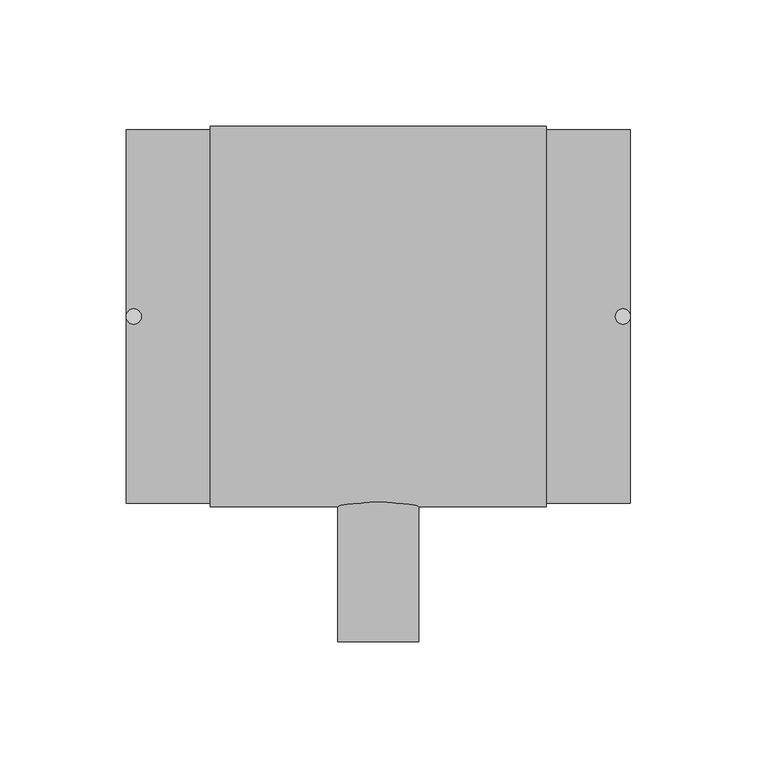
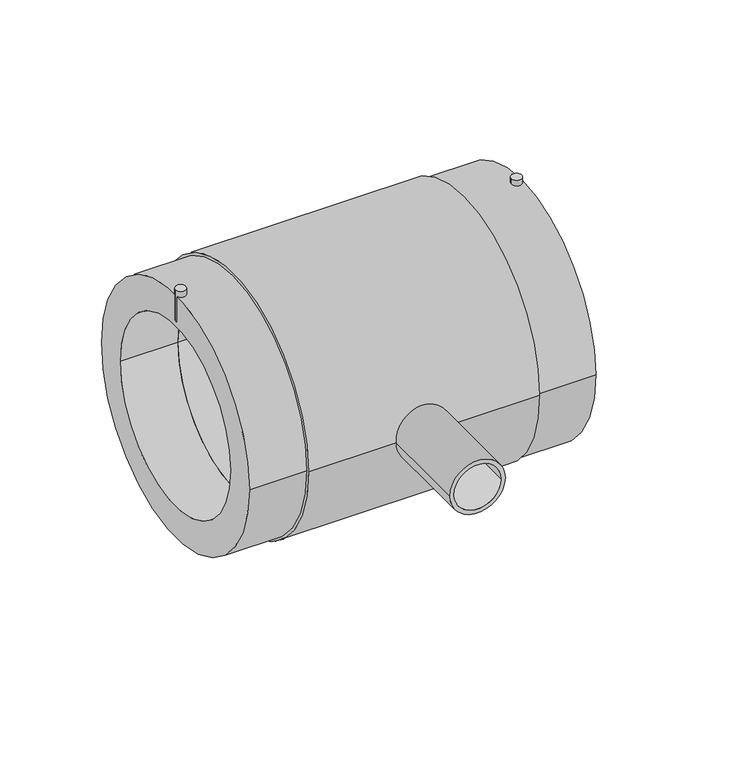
"""IFC4 building model written with IfcOpenShell, lengths in millimetres: pipe fitting geometry, EGB_VASEN_ PPR_Te electrosoldable WXRD300_Te reducida electrosoldable WXRD310 : Te electrosoldable."""

from ifc_helpers import new_model, si_unit, point, frame, frame_2d, origin, origin_2d, place, context, project, spatial, circle_curve, trimmed, segment, composite_curve, outline, extrude, source, transform, mapped, element, save


def pipe_fitting_0f6de56a(model_context):
    return source(origin(), model_context, "Body", "SweptSolid", [
        extrude(outline(composite_curve([segment(trimmed(circle_curve(frame_2d((-97.0, 0.0)), 3.0), [point((-100.0, 0.0))], [point((-94.0, 0.0))], False, "CARTESIAN"), True, "CONTINUOUS"), segment(trimmed(circle_curve(frame_2d((-97.0, 0.0)), 3.0), [point((-94.0, 0.0))], [point((-100.0, 0.0))], False, "CARTESIAN"), True, "CONTINUOUS")], self_intersect=False)), frame((0.0, 0.0, 58.0), z_axis=(0.0, 0.0, 1.0), x_axis=(1.0, 0.0, 0.0)), (0.0, 0.0, 1.0), 19.0),
        extrude(outline(composite_curve([segment(trimmed(circle_curve(frame_2d((97.0, 0.0)), 3.0), [point((94.0, 0.0))], [point((100.0, 0.0))], False, "CARTESIAN"), True, "CONTINUOUS"), segment(trimmed(circle_curve(frame_2d((97.0, 0.0)), 3.0), [point((100.0, 0.0))], [point((94.0, 0.0))], False, "CARTESIAN"), True, "CONTINUOUS")], self_intersect=False)), frame((0.0, 0.0, 58.0), z_axis=(0.0, 0.0, 1.0), x_axis=(1.0, 0.0, 0.0)), (0.0, 0.0, 1.0), 19.0),
        extrude(outline(composite_curve([segment(trimmed(circle_curve(origin_2d(), 18.5), [point((0.0, 18.5))], [point((0.0, -18.5))], False, "CARTESIAN"), True, "CONTINUOUS"), segment(trimmed(circle_curve(origin_2d(), 18.5), [point((0.0, -18.5))], [point((0.0, 18.5))], False, "CARTESIAN"), True, "CONTINUOUS")], self_intersect=False)), frame((0.0, -51.6, 0.0), z_axis=(0.0, 1.0, 0.0), x_axis=(0.0, 0.0, 1.0)), (0.0, 0.0, 1.0), 51.6),
        extrude(outline(composite_curve([segment(trimmed(circle_curve(origin_2d(), 16.0), [point((0.0, -16.0))], [point((0.0, 16.0))], False, "CARTESIAN"), True, "CONTINUOUS"), segment(trimmed(circle_curve(origin_2d(), 16.0), [point((0.0, 16.0))], [point((0.0, -16.0))], False, "CARTESIAN"), True, "CONTINUOUS")], self_intersect=False), holes=[composite_curve([segment(trimmed(circle_curve(origin_2d(), 13.5), [point((0.0, -13.5))], [point((0.0, 13.5))], True, "CARTESIAN"), True, "CONTINUOUS"), segment(trimmed(circle_curve(origin_2d(), 13.5), [point((0.0, 13.5))], [point((0.0, -13.5))], True, "CARTESIAN"), True, "CONTINUOUS")], self_intersect=False)]), frame((0.0, -129.0, 0.0), z_axis=(0.0, 1.0, 0.0), x_axis=(0.0, 0.0, 1.0)), (0.0, 0.0, 1.0), 77.4),
        extrude(outline(composite_curve([segment(trimmed(circle_curve(origin_2d(), 75.5), [point((-75.5, 0.0))], [point((75.5, 0.0))], False, "CARTESIAN"), True, "CONTINUOUS"), segment(trimmed(circle_curve(origin_2d(), 75.5), [point((75.5, 0.0))], [point((-75.5, 0.0))], False, "CARTESIAN"), True, "CONTINUOUS")], self_intersect=False), holes=[composite_curve([segment(trimmed(circle_curve(origin_2d(), 55.0), [point((-55.0, 0.0))], [point((55.0, 0.0))], True, "CARTESIAN"), True, "CONTINUOUS"), segment(trimmed(circle_curve(origin_2d(), 55.0), [point((55.0, 0.0))], [point((-55.0, 0.0))], True, "CARTESIAN"), True, "CONTINUOUS")], self_intersect=False)]), frame((-66.6666667, 0.0, 0.0), z_axis=(1.0, 0.0, 0.0), x_axis=(0.0, 1.0, 0.0)), (0.0, 0.0, 1.0), 133.3333333),
        extrude(outline(composite_curve([segment(trimmed(circle_curve(origin_2d(), 74.0), [point((-74.0, 0.0))], [point((74.0, 0.0))], False, "CARTESIAN"), True, "CONTINUOUS"), segment(trimmed(circle_curve(origin_2d(), 74.0), [point((74.0, 0.0))], [point((-74.0, 0.0))], False, "CARTESIAN"), True, "CONTINUOUS")], self_intersect=False), holes=[composite_curve([segment(trimmed(circle_curve(origin_2d(), 55.0), [point((-55.0, 0.0))], [point((55.0, 0.0))], True, "CARTESIAN"), True, "CONTINUOUS"), segment(trimmed(circle_curve(origin_2d(), 55.0), [point((55.0, 0.0))], [point((-55.0, 0.0))], True, "CARTESIAN"), True, "CONTINUOUS")], self_intersect=False)]), frame((-100.0, 0.0, 0.0), z_axis=(1.0, 0.0, 0.0), x_axis=(0.0, 1.0, 0.0)), (0.0, 0.0, 1.0), 200.0),
    ])


if __name__ == "__main__":
    model = new_model("IFC4")
    model_context = context("Model", 3, world=origin())
    ifc_project = project(units=[si_unit("LENGTHUNIT", "METRE", prefix="MILLI")], contexts=[model_context])
    site = spatial("IfcSite", under=ifc_project)
    building = spatial("IfcBuilding", under=site)
    placement = place(None, origin())
    pipe_fitting_shape = pipe_fitting_0f6de56a(model_context)
    element("IfcPipeFitting", 1, ObjectType="EGB_VASEN_ PPR_Te electrosoldable WXRD300_Te reducida electrosoldable WXRD310 : Te electrosoldable", at=placement, inside=building, context=model_context, shape_type="MappedRepresentation", body=[
        mapped(pipe_fitting_shape, transform((0.0, 0.0, 0.0), x_axis=(1.0, 0.0, 0.0), y_axis=(0.0, 1.0, 0.0), z_axis=(0.0, 0.0, 1.0))),
    ])
    save(model, "model.ifc")
